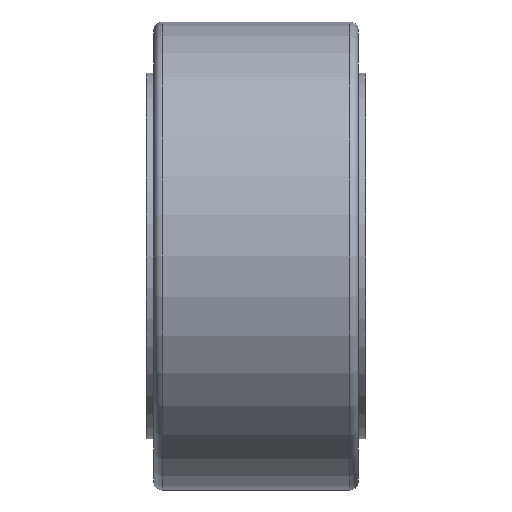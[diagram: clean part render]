
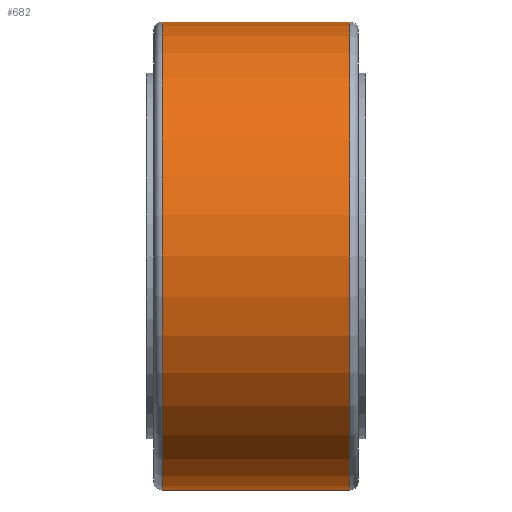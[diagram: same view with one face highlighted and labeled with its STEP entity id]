
A CAD part, front view. The second image highlights one B-rep face of the part: STEP entity #682.
In plain terms, the highlighted cylindrical face has radius 16 mm (diameter 32 mm), a full revolution.
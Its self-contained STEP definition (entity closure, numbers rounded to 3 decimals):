
#259=CIRCLE('',#866,16.);
#261=CIRCLE('',#869,16.);
#308=FACE_BOUND('',#428,.T.);
#352=FACE_OUTER_BOUND('',#427,.T.);
#427=EDGE_LOOP('',(#605));
#428=EDGE_LOOP('',(#606));
#485=VERTEX_POINT('',#1372);
#487=VERTEX_POINT('',#1377);
#529=EDGE_CURVE('',#485,#485,#259,.T.);
#531=EDGE_CURVE('',#487,#487,#261,.T.);
#605=ORIENTED_EDGE('',*,*,#531,.F.);
#606=ORIENTED_EDGE('',*,*,#529,.F.);
#645=CYLINDRICAL_SURFACE('',#868,16.);
#682=ADVANCED_FACE('',(#352,#308),#645,.T.);
#866=AXIS2_PLACEMENT_3D('',#1373,#1067,#1068);
#868=AXIS2_PLACEMENT_3D('',#1376,#1071,#1072);
#869=AXIS2_PLACEMENT_3D('',#1378,#1073,#1074);
#1067=DIRECTION('center_axis',(1.,0.,0.));
#1068=DIRECTION('ref_axis',(0.,-1.,0.));
#1071=DIRECTION('center_axis',(1.,0.,0.));
#1072=DIRECTION('ref_axis',(0.,1.,0.));
#1073=DIRECTION('center_axis',(-1.,0.,0.));
#1074=DIRECTION('ref_axis',(0.,-1.,0.));
#1372=CARTESIAN_POINT('',(6.4,16.,0.));
#1373=CARTESIAN_POINT('Origin',(6.4,0.,0.));
#1376=CARTESIAN_POINT('Origin',(0.,0.,
0.));
#1377=CARTESIAN_POINT('',(-6.4,16.,0.));
#1378=CARTESIAN_POINT('Origin',(-6.4,0.,0.));
